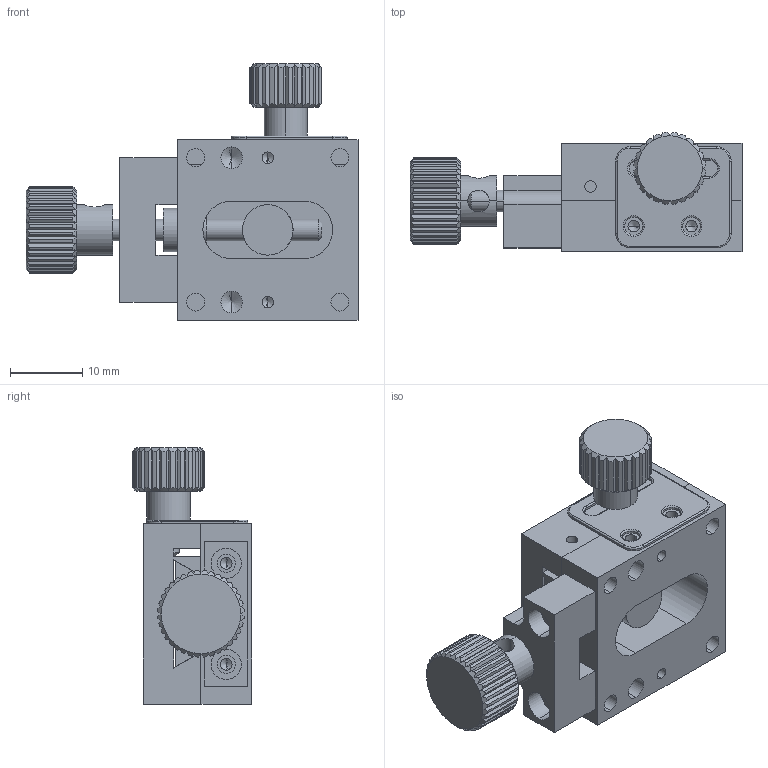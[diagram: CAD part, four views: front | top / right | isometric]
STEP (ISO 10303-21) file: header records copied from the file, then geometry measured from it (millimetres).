
FILE_DESCRIPTION (( 'STEP AP203' ), '1' );
FILE_NAME ('JD1-25S-R.STEP', '2013-12-24T02:03:22', ( 'MTT' ), ( '' ), 'SwSTEP 2.0', 'SolidWorks 2013', '' );
FILE_SCHEMA (( 'CONFIG_CONTROL_DESIGN' ));
Length unit declared in the file: millimetre
Products named in the file (9): Check Bolt; JD1-25S-R; Bottom Plate-R; Top Plate-R; Screw-R; Screw Guide-R; Gripper-R; Screw Head-R; Check Plate
Assembly tree (8 placements, depth 2):
  JD1-25S-R
    Bottom Plate-R
    Top Plate-R
    Screw-R
    Screw Guide-R
    Gripper-R
    Screw Head-R
    Check Plate
    Check Bolt
Bounding box: 46 x 16.49 x 35.5 mm (x, y, z)
Volume: 10105.5 mm3; surface area: 9197.5 mm2
Topology: 8 solids, 8 shells, 456 faces, 1224 edges, 768 vertices
Faces by surface type: cylinder 194, plane 193, cone 58, torus 11
Entity records: 15660 total; most frequent: CARTESIAN_POINT 3614, ORIENTED_EDGE 2368, DIRECTION 2251, EDGE_CURVE 1184, AXIS2_PLACEMENT_3D 875, VERTEX_POINT 768, EDGE_LOOP 530, LINE 501
